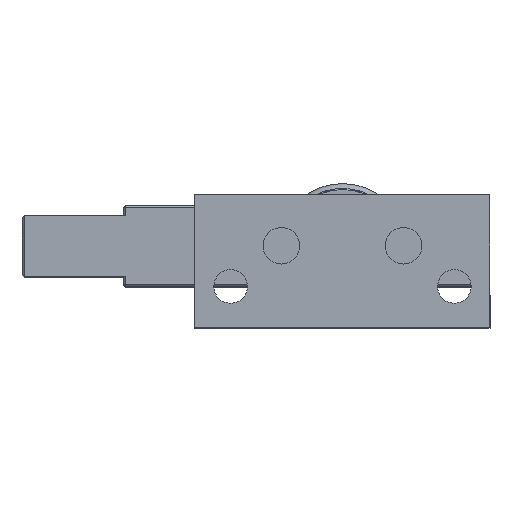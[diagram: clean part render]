
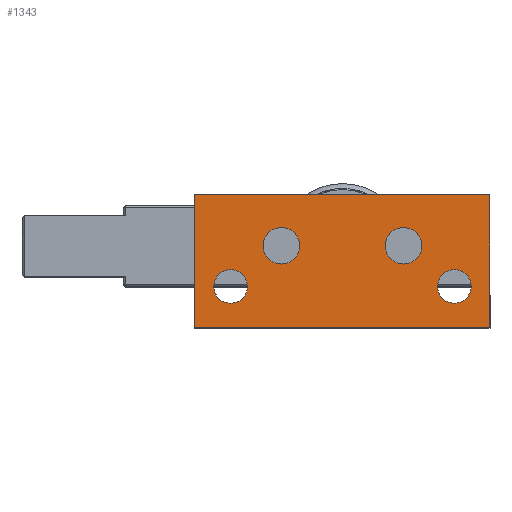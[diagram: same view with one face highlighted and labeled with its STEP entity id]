
A CAD part, top view. The second image highlights one B-rep face of the part: STEP entity #1343.
In plain terms, the highlighted planar face has unit normal (0, 0, 1).
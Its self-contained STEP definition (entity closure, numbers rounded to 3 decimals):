
#134 = EDGE_LOOP ( 'NONE', ( #3292, #16588 ) ) ;
#274 = AXIS2_PLACEMENT_3D ( 'NONE', #1271, #11629, #2785 ) ;
#590 = VERTEX_POINT ( 'NONE', #11197 ) ;
#614 = CARTESIAN_POINT ( 'NONE',  ( -7.8, 8., 70. ) ) ;
#646 = AXIS2_PLACEMENT_3D ( 'NONE', #18034, #18009, #17970 ) ;
#1271 = CARTESIAN_POINT ( 'NONE',  ( 6., 8., 70. ) ) ;
#1332 = CARTESIAN_POINT ( 'NONE',  ( 14.5, 13., 70. ) ) ;
#1343 = ADVANCED_FACE ( 'NONE', ( #18345, #10665, #7224, #14558, #18803 ), #18153, .F. ) ;
#1612 = CARTESIAN_POINT ( 'NONE',  ( 9.35, 4., 70. ) ) ;
#1719 = CARTESIAN_POINT ( 'NONE',  ( 12.65, 4., 70. ) ) ;
#1812 = VERTEX_POINT ( 'NONE', #3911 ) ;
#1950 = CIRCLE ( 'NONE', #11324, 1.8 ) ;
#2036 = CARTESIAN_POINT ( 'NONE',  ( -4.2, 8., 70. ) ) ;
#2159 = ORIENTED_EDGE ( 'NONE', *, *, #8436, .T. ) ;
#2615 = CARTESIAN_POINT ( 'NONE',  ( 11., 4., 70. ) ) ;
#2785 = DIRECTION ( 'NONE',  ( -1., 0., 0. ) ) ;
#2863 = CIRCLE ( 'NONE', #17921, 1.65 ) ;
#3181 = CIRCLE ( 'NONE', #9871, 1.8 ) ;
#3292 = ORIENTED_EDGE ( 'NONE', *, *, #9962, .F. ) ;
#3794 = DIRECTION ( 'NONE',  ( 0., 1., 0. ) ) ;
#3797 = CARTESIAN_POINT ( 'NONE',  ( -14.5, 13., 70. ) ) ;
#3867 = CARTESIAN_POINT ( 'NONE',  ( -11., 4., 70. ) ) ;
#3877 = CARTESIAN_POINT ( 'NONE',  ( 14.5, 0., 70. ) ) ;
#3911 = CARTESIAN_POINT ( 'NONE',  ( -14.5, 13., 70. ) ) ;
#4058 = CIRCLE ( 'NONE', #274, 1.8 ) ;
#4142 = DIRECTION ( 'NONE',  ( 1., 0., 0. ) ) ;
#4261 = DIRECTION ( 'NONE',  ( 0., 0., -1. ) ) ;
#4364 = EDGE_LOOP ( 'NONE', ( #8628, #7251 ) ) ;
#4490 = VERTEX_POINT ( 'NONE', #13037 ) ;
#4776 = CIRCLE ( 'NONE', #10249, 1.65 ) ;
#5071 = VERTEX_POINT ( 'NONE', #1332 ) ;
#5316 = DIRECTION ( 'NONE',  ( -1., 0., 0. ) ) ;
#5376 = DIRECTION ( 'NONE',  ( 0., 0., 1. ) ) ;
#5870 = CARTESIAN_POINT ( 'NONE',  ( 4.2, 8., 70. ) ) ;
#6117 = VECTOR ( 'NONE', #16946, 1000. ) ;
#6452 = DIRECTION ( 'NONE',  ( 0., 0., 1. ) ) ;
#6650 = VERTEX_POINT ( 'NONE', #17288 ) ;
#6778 = ORIENTED_EDGE ( 'NONE', *, *, #12909, .T. ) ;
#7012 = VERTEX_POINT ( 'NONE', #16255 ) ;
#7224 = FACE_BOUND ( 'NONE', #16396, .T. ) ;
#7251 = ORIENTED_EDGE ( 'NONE', *, *, #14853, .T. ) ;
#7893 = VECTOR ( 'NONE', #9690, 1000. ) ;
#8000 = VERTEX_POINT ( 'NONE', #10368 ) ;
#8168 = CARTESIAN_POINT ( 'NONE',  ( -6., 8., 70. ) ) ;
#8194 = CIRCLE ( 'NONE', #16359, 1.65 ) ;
#8221 = CARTESIAN_POINT ( 'NONE',  ( 11., 4., 70. ) ) ;
#8436 = EDGE_CURVE ( 'NONE', #590, #8000, #4776, .T. ) ;
#8628 = ORIENTED_EDGE ( 'NONE', *, *, #9434, .T. ) ;
#8808 = ORIENTED_EDGE ( 'NONE', *, *, #15466, .T. ) ;
#9119 = CIRCLE ( 'NONE', #11764, 1.65 ) ;
#9140 = VERTEX_POINT ( 'NONE', #5870 ) ;
#9223 = VERTEX_POINT ( 'NONE', #1719 ) ;
#9225 = ORIENTED_EDGE ( 'NONE', *, *, #9671, .F. ) ;
#9434 = EDGE_CURVE ( 'NONE', #13104, #9223, #8194, .T. ) ;
#9640 = DIRECTION ( 'NONE',  ( -1., 0., 0. ) ) ;
#9671 = EDGE_CURVE ( 'NONE', #18282, #11936, #1950, .T. ) ;
#9690 = DIRECTION ( 'NONE',  ( 1., 0., 0. ) ) ;
#9692 = DIRECTION ( 'NONE',  ( 1., 0., 0. ) ) ;
#9740 = ORIENTED_EDGE ( 'NONE', *, *, #17604, .T. ) ;
#9871 = AXIS2_PLACEMENT_3D ( 'NONE', #8168, #18320, #9640 ) ;
#9962 = EDGE_CURVE ( 'NONE', #4490, #9140, #14369, .T. ) ;
#10249 = AXIS2_PLACEMENT_3D ( 'NONE', #3867, #14098, #5316 ) ;
#10368 = CARTESIAN_POINT ( 'NONE',  ( -9.35, 4., 70. ) ) ;
#10665 = FACE_BOUND ( 'NONE', #18371, .T. ) ;
#10694 = EDGE_CURVE ( 'NONE', #9140, #4490, #4058, .T. ) ;
#10943 = AXIS2_PLACEMENT_3D ( 'NONE', #15252, #6452, #16674 ) ;
#11197 = CARTESIAN_POINT ( 'NONE',  ( -12.65, 4., 70. ) ) ;
#11324 = AXIS2_PLACEMENT_3D ( 'NONE', #14146, #5376, #15642 ) ;
#11629 = DIRECTION ( 'NONE',  ( 0., 0., 1. ) ) ;
#11764 = AXIS2_PLACEMENT_3D ( 'NONE', #8221, #18376, #9692 ) ;
#11936 = VERTEX_POINT ( 'NONE', #614 ) ;
#12660 = CARTESIAN_POINT ( 'NONE',  ( 14.5, 13., 70. ) ) ;
#12909 = EDGE_CURVE ( 'NONE', #1812, #7012, #15689, .T. ) ;
#12937 = DIRECTION ( 'NONE',  ( 0., 0., -1. ) ) ;
#13037 = CARTESIAN_POINT ( 'NONE',  ( 7.8, 8., 70. ) ) ;
#13051 = CARTESIAN_POINT ( 'NONE',  ( -11., 4., 70. ) ) ;
#13104 = VERTEX_POINT ( 'NONE', #1612 ) ;
#13981 = EDGE_CURVE ( 'NONE', #11936, #18282, #3181, .T. ) ;
#14098 = DIRECTION ( 'NONE',  ( 0., 0., -1. ) ) ;
#14146 = CARTESIAN_POINT ( 'NONE',  ( -6., 8., 70. ) ) ;
#14369 = CIRCLE ( 'NONE', #10943, 1.8 ) ;
#14500 = DIRECTION ( 'NONE',  ( -1., 0., 0. ) ) ;
#14558 = FACE_BOUND ( 'NONE', #134, .T. ) ;
#14583 = EDGE_LOOP ( 'NONE', ( #15923, #9740, #8808, #6778 ) ) ;
#14853 = EDGE_CURVE ( 'NONE', #9223, #13104, #9119, .T. ) ;
#15241 = VECTOR ( 'NONE', #17319, 1000. ) ;
#15252 = CARTESIAN_POINT ( 'NONE',  ( 6., 8., 70. ) ) ;
#15453 = CARTESIAN_POINT ( 'NONE',  ( -14.5, 0., 70. ) ) ;
#15466 = EDGE_CURVE ( 'NONE', #5071, #1812, #18191, .T. ) ;
#15642 = DIRECTION ( 'NONE',  ( -1., 0., 0. ) ) ;
#15689 = LINE ( 'NONE', #15453, #15241 ) ;
#15716 = VECTOR ( 'NONE', #3794, 1000. ) ;
#15889 = ORIENTED_EDGE ( 'NONE', *, *, #17249, .T. ) ;
#15923 = ORIENTED_EDGE ( 'NONE', *, *, #18425, .T. ) ;
#16255 = CARTESIAN_POINT ( 'NONE',  ( -14.5, 0., 70. ) ) ;
#16359 = AXIS2_PLACEMENT_3D ( 'NONE', #2615, #12937, #4142 ) ;
#16396 = EDGE_LOOP ( 'NONE', ( #9225, #16565 ) ) ;
#16565 = ORIENTED_EDGE ( 'NONE', *, *, #13981, .F. ) ;
#16588 = ORIENTED_EDGE ( 'NONE', *, *, #10694, .F. ) ;
#16674 = DIRECTION ( 'NONE',  ( -1., 0., 0. ) ) ;
#16946 = DIRECTION ( 'NONE',  ( -1., 0., 0. ) ) ;
#17249 = EDGE_CURVE ( 'NONE', #8000, #590, #2863, .T. ) ;
#17288 = CARTESIAN_POINT ( 'NONE',  ( 14.5, 0., 70. ) ) ;
#17319 = DIRECTION ( 'NONE',  ( 0., -1., 0. ) ) ;
#17604 = EDGE_CURVE ( 'NONE', #6650, #5071, #18590, .T. ) ;
#17921 = AXIS2_PLACEMENT_3D ( 'NONE', #13051, #4261, #14500 ) ;
#17970 = DIRECTION ( 'NONE',  ( -1., 0., 0. ) ) ;
#18009 = DIRECTION ( 'NONE',  ( 0., 0., -1. ) ) ;
#18034 = CARTESIAN_POINT ( 'NONE',  ( -14.5, 0., 70. ) ) ;
#18153 = PLANE ( 'NONE',  #646 ) ;
#18191 = LINE ( 'NONE', #3797, #6117 ) ;
#18282 = VERTEX_POINT ( 'NONE', #2036 ) ;
#18320 = DIRECTION ( 'NONE',  ( 0., 0., 1. ) ) ;
#18345 = FACE_BOUND ( 'NONE', #4364, .T. ) ;
#18371 = EDGE_LOOP ( 'NONE', ( #2159, #15889 ) ) ;
#18376 = DIRECTION ( 'NONE',  ( 0., 0., -1. ) ) ;
#18425 = EDGE_CURVE ( 'NONE', #7012, #6650, #18570, .T. ) ;
#18570 = LINE ( 'NONE', #3877, #7893 ) ;
#18590 = LINE ( 'NONE', #12660, #15716 ) ;
#18803 = FACE_OUTER_BOUND ( 'NONE', #14583, .T. ) ;
